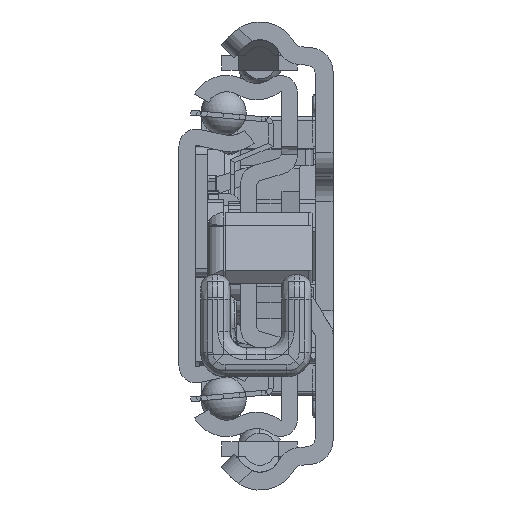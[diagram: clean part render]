
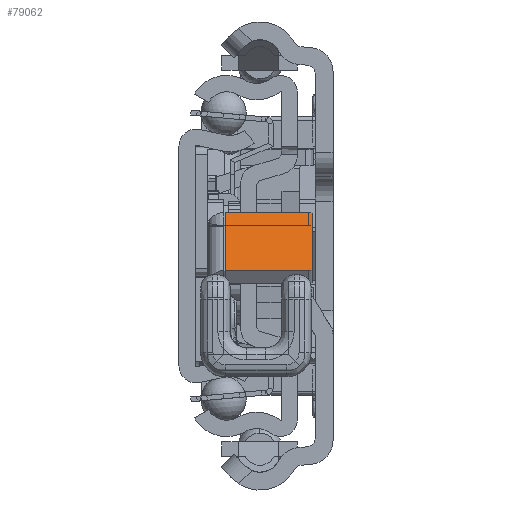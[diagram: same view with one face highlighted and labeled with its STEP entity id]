
A CAD part, left-side view. The second image highlights one B-rep face of the part: STEP entity #79062.
In plain terms, the highlighted planar face has unit normal (-0.597, 0, 0.802) as drawn and (-0.597, -0.802, 0) by its records, which use the part's own axes.
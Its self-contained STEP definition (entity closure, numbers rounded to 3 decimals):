
#78450=DIRECTION('',(0.802,-0.597,0.));
#78451=VECTOR('',#78450,12.);
#78452=CARTESIAN_POINT('',(31.957,-10.314,-0.2));
#78453=LINE('',#78452,#78451);
#78478=DIRECTION('',(0.,0.,1.));
#78479=VECTOR('',#78478,10.3);
#78480=CARTESIAN_POINT('',(41.586,-17.476,-10.5));
#78481=LINE('',#78480,#78479);
#78482=CARTESIAN_POINT('',(41.184,-17.178,-10.5));
#78483=DIRECTION('',(-0.597,-0.802,0.));
#78484=DIRECTION('',(0.,0.,-1.));
#78485=AXIS2_PLACEMENT_3D('',#78482,#78483,#78484);
#78487=DIRECTION('',(0.802,-0.597,0.));
#78488=VECTOR('',#78487,11.);
#78489=CARTESIAN_POINT('',(32.358,-10.613,-11.));
#78490=LINE('',#78489,#78488);
#78491=CARTESIAN_POINT('',(32.358,-10.613,-10.5));
#78492=DIRECTION('',(-0.597,-0.802,0.));
#78493=DIRECTION('',(-0.802,0.597,0.));
#78494=AXIS2_PLACEMENT_3D('',#78491,#78492,#78493);
#78496=DIRECTION('',(0.,0.,-1.));
#78497=VECTOR('',#78496,10.3);
#78498=CARTESIAN_POINT('',(31.957,-10.314,-0.2));
#78499=LINE('',#78498,#78497);
#78716=CARTESIAN_POINT('',(31.957,-10.314,-0.2));
#78717=CARTESIAN_POINT('',(41.586,-17.476,-0.2));
#78718=VERTEX_POINT('',#78716);
#78719=VERTEX_POINT('',#78717);
#78748=CARTESIAN_POINT('',(41.586,-17.476,-10.5));
#78749=VERTEX_POINT('',#78748);
#78750=CARTESIAN_POINT('',(32.358,-10.613,-11.));
#78751=CARTESIAN_POINT('',(41.184,-17.178,-11.));
#78752=VERTEX_POINT('',#78750);
#78753=VERTEX_POINT('',#78751);
#78754=CARTESIAN_POINT('',(31.957,-10.314,-10.5));
#78755=VERTEX_POINT('',#78754);
#79044=CARTESIAN_POINT('',(34.726,-12.374,2.));
#79045=DIRECTION('',(0.597,0.802,0.));
#79046=DIRECTION('',(0.802,-0.597,0.));
#79047=AXIS2_PLACEMENT_3D('',#79044,#79045,#79046);
#79048=PLANE('',#79047);
#79050=ORIENTED_EDGE('',*,*,#79049,.F.);
#79052=ORIENTED_EDGE('',*,*,#79051,.F.);
#79054=ORIENTED_EDGE('',*,*,#79053,.F.);
#79056=ORIENTED_EDGE('',*,*,#79055,.F.);
#79058=ORIENTED_EDGE('',*,*,#79057,.F.);
#79059=ORIENTED_EDGE('',*,*,#79031,.T.);
#79060=EDGE_LOOP('',(#79050,#79052,#79054,#79056,#79058,#79059));
#79061=FACE_OUTER_BOUND('',#79060,.F.);
#78486=CIRCLE('',#78485,0.5);
#78495=CIRCLE('',#78494,0.5);
#79031=EDGE_CURVE('',#78718,#78719,#78453,.T.);
#79049=EDGE_CURVE('',#78749,#78719,#78481,.T.);
#79051=EDGE_CURVE('',#78753,#78749,#78486,.T.);
#79053=EDGE_CURVE('',#78752,#78753,#78490,.T.);
#79055=EDGE_CURVE('',#78755,#78752,#78495,.T.);
#79057=EDGE_CURVE('',#78718,#78755,#78499,.T.);
#79062=ADVANCED_FACE('',(#79061),#79048,.F.);
